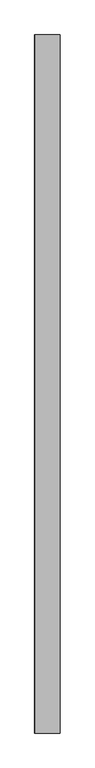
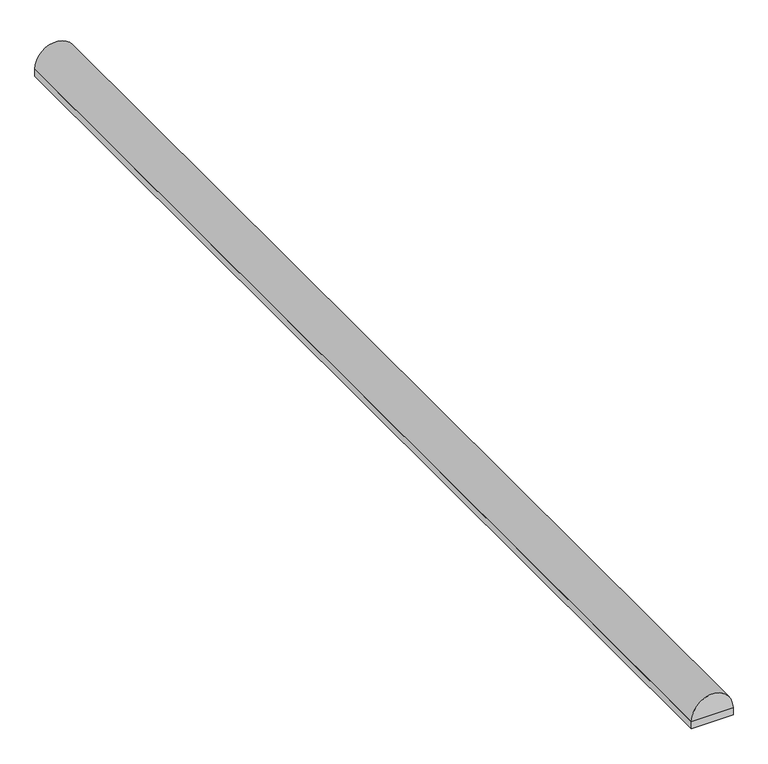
"""IFC4 building model written with IfcOpenShell, lengths in millimetres: proxy geometry, Spinneybeck_ARO Plank 1 : A - 4 1/4 in (10.8 cm)."""

from ifc_helpers import new_model, si_unit, point, frame, origin, origin_with_axes, place, context, project, spatial, polyline, ellipse_curve, trimmed, outline, extrude, source, transform, mapped, element, save
from ifc_brep_helpers import plane_surface, extruded_surface, advanced_brep


def specialty_equipment_105ff39a(model_context):
    return source(origin(), model_context, "Body", "SolidModel", [
        extrude(outline(polyline([(-53.975, 2946.4), (53.975, 2946.4), (53.975, 0.0), (-53.975, 0.0), (-53.975, 2946.4)])), origin_with_axes(), (0.0, 0.0, 1.0), 19.05),
        advanced_brep(
        [(53.975, 2946.4, 19.05), (-53.975, 2946.4, 19.05), (53.975, 0.0, 19.05), (-53.975, 0.0, 19.05)],
        [
            (0, 1),
            (1, 0, ellipse_curve(frame((0.0, 2946.4, 19.05), z_axis=(0.0, 1.0, 0.0), x_axis=(-1.0, 0.0, 0.0)), 53.975, 57.15)),
            (2, 3, ellipse_curve(frame((0.0, 0.0, 19.05), z_axis=(0.0, -1.0, 0.0), x_axis=(-1.0, 0.0, 0.0)), 53.975, 57.15)),
            (3, 2),
            (0, 2),
            (3, 1),
        ],
        [
            plane_surface(frame((0.0, 2946.4, 0.0), z_axis=(0.0, 1.0, 0.0), x_axis=(0.0, 0.0, 1.0))),
            plane_surface(frame((0.0, 0.0, 0.0), z_axis=(0.0, -1.0, 0.0), x_axis=(0.0, 0.0, 1.0))),
            plane_surface(frame((53.975, 2946.4, 19.05), z_axis=(0.0, 0.0, -1.0), x_axis=(0.0, -1.0, 0.0))),
            extruded_surface(trimmed(ellipse_curve(frame((0.0, 0.0, 19.05), z_axis=(0.0, 1.0, 0.0), x_axis=(-1.0, 0.0, 0.0)), 53.975, 57.15), [point((-53.975, 0.0, 19.05))], [point((53.975, 0.0, 19.05))], True, "CARTESIAN"), (0.0, 2946.4, 0.0), 2946.4),
        ],
        [
            (0, [[1, 2]]),
            (1, [[3, 4]]),
            (2, [[-1, 5, -4, 6]]),
            (3, [[-2, -6, -3, -5]]),
        ],
    ),
    ])


if __name__ == "__main__":
    model = new_model("IFC4")
    model_context = context("Model", 3, world=origin())
    ifc_project = project(units=[si_unit("LENGTHUNIT", "METRE", prefix="MILLI")], contexts=[model_context])
    site = spatial("IfcSite", under=ifc_project)
    building = spatial("IfcBuilding", under=site)
    placement = place(None, origin())
    specialty_equipment_shape = specialty_equipment_105ff39a(model_context)
    element("IfcBuildingElementProxy", 1, Name="Spinneybeck_ARO Plank 1 : A - 4 1/4 in (10.8 cm)", ObjectType="Spinneybeck_ARO Plank 1 : A - 4 1/4 in (10.8 cm)", at=placement, inside=building, context=model_context, shape_type="MappedRepresentation", body=[
        mapped(specialty_equipment_shape, transform((0.0, 0.0, 0.0), x_axis=(1.0, 0.0, 0.0), y_axis=(0.0, 1.0, 0.0), z_axis=(0.0, 0.0, 1.0))),
    ])
    save(model, "model.ifc")
